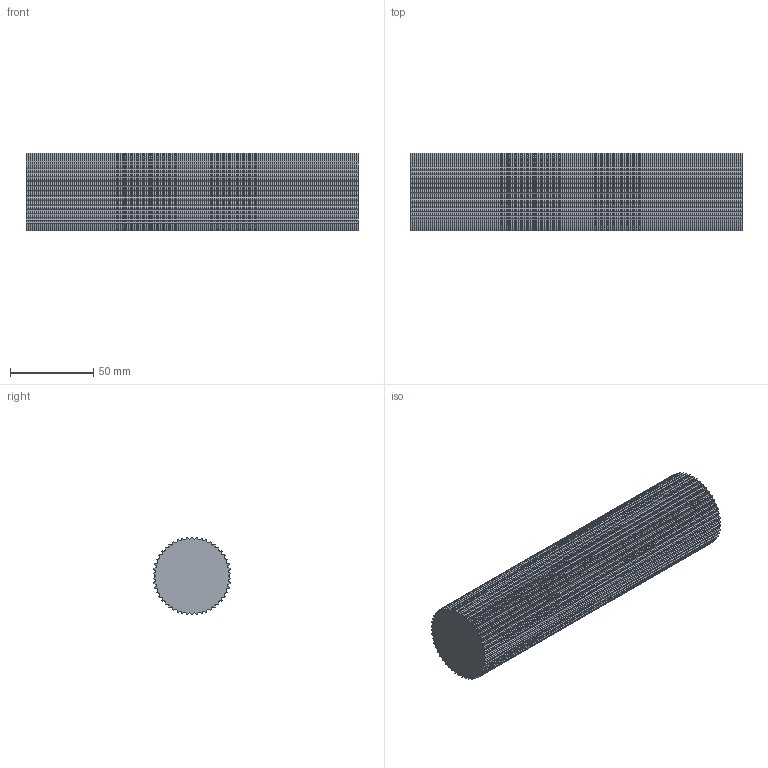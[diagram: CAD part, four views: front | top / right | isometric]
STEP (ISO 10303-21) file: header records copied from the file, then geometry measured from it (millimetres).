
FILE_DESCRIPTION( ( 'STEP AP214' ), '1' );
FILE_NAME( 'C:/Users/StangenbergN/Documents/CAD_Step/1/17095000.stp', '2019-08-23T07:11:32', ( '' ), ( '' ), ' ', 'PARTsolutions', ' ' );
FILE_SCHEMA( ( 'AUTOMOTIVE_DESIGN { 1 0 10303 214 1 1 1 1 }' ) );
Length unit declared in the file: millimetre
Products named in the file (1): _17095000
Bounding box: 200 x 46.9 x 46.98 mm (x, y, z)
Volume: 325270.7 mm3; surface area: 43635.6 mm2
Topology: 1 solids, 1 shells, 402 faces, 1200 edges, 800 vertices
Faces by surface type: cylinder 250, plane 152
Entity records: 16956 total; most frequent: DIRECTION 2506, CARTESIAN_POINT 2403, ORIENTED_EDGE 2400, EDGE_CURVE 1200, AXIS2_PLACEMENT_3D 903, VERTEX_POINT 800, LINE 700, VECTOR 700
